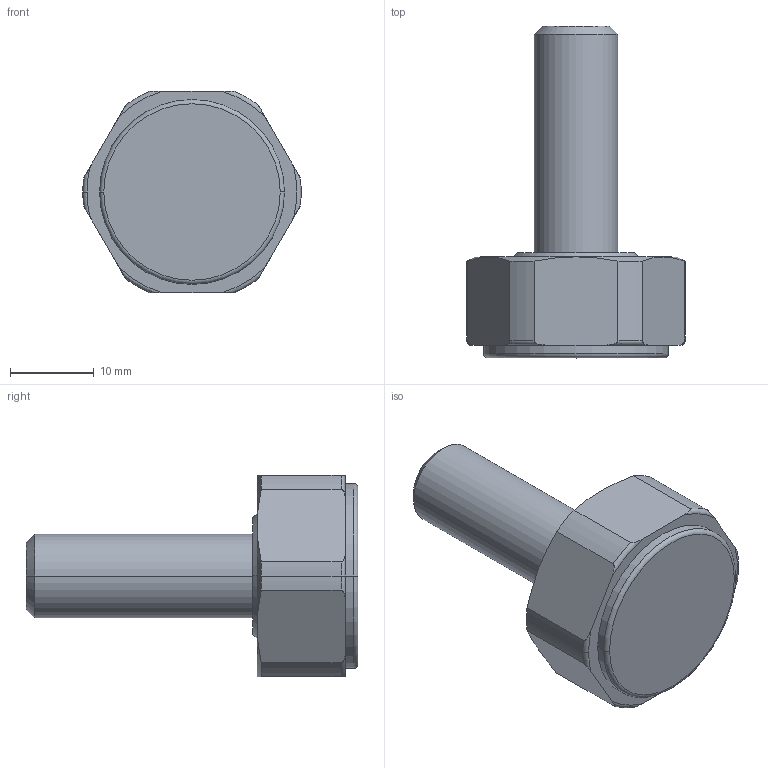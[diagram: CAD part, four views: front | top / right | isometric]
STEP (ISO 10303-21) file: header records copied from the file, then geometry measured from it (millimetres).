
FILE_DESCRIPTION (( 'STEP AP214' ), '1' );
FILE_NAME ('EA23-100270.STEP', '2020-03-09T12:53:57', ( '' ), ( '' ), 'SwSTEP 2.0', 'SolidWorks 2019', '' );
FILE_SCHEMA (( 'AUTOMOTIVE_DESIGN' ));
Length unit declared in the file: millimetre
Products named in the file (1): EA23-100270
Bounding box: 26 x 39.5 x 24 mm (x, y, z)
Volume: 7897.4 mm3; surface area: 2727.6 mm2
Topology: 1 solids, 1 shells, 42 faces, 100 edges, 63 vertices
Faces by surface type: cone 11, cylinder 11, plane 11, torus 9
Entity records: 1394 total; most frequent: CARTESIAN_POINT 390, DIRECTION 210, ORIENTED_EDGE 200, EDGE_CURVE 100, AXIS2_PLACEMENT_3D 91, VERTEX_POINT 63, CIRCLE 48, EDGE_LOOP 45
